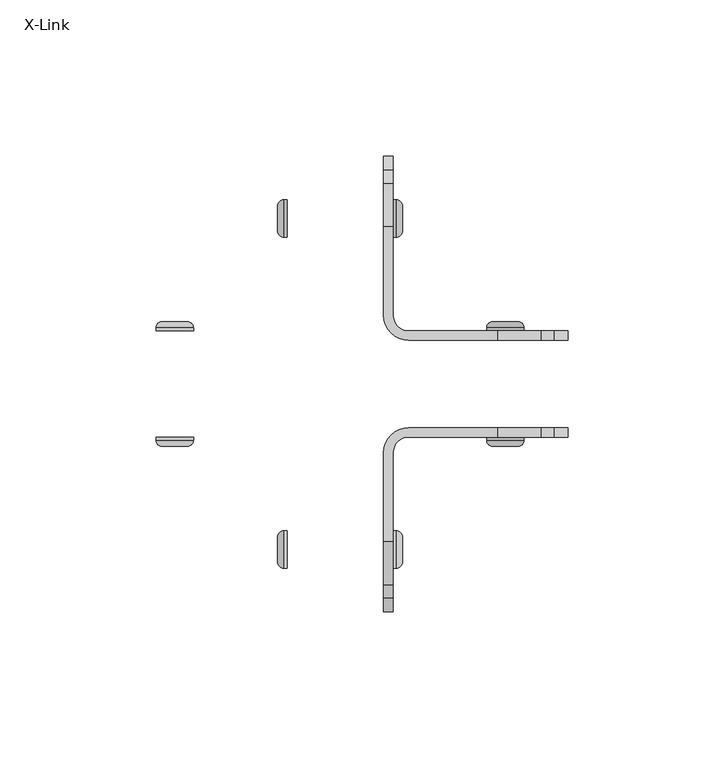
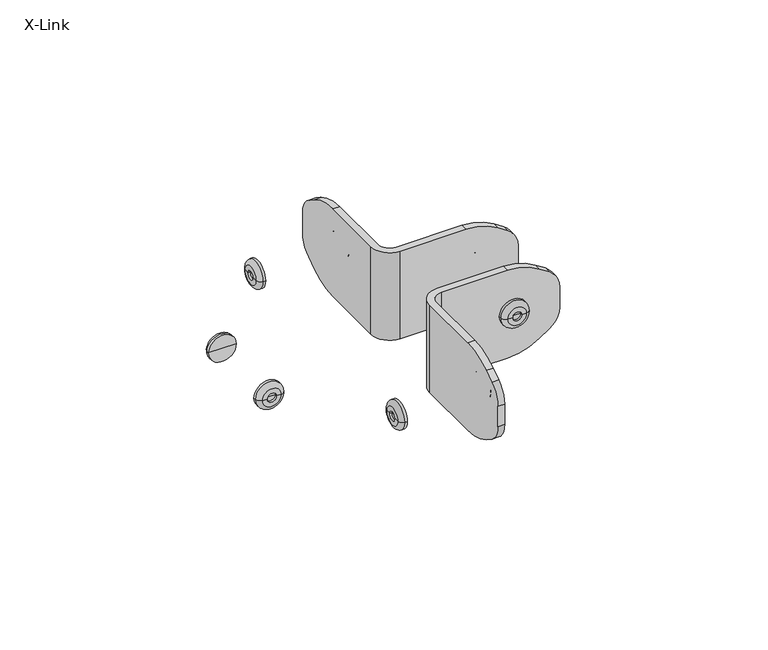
"""IFC4 building model written with IfcOpenShell, lengths in millimetres: furniture geometry, DBLTD_Sixteen3_PrivacyScreens_Artus_Bracket : X-Link."""

from ifc_helpers import new_model, si_unit, point, frame, origin, place, context, project, spatial, polyline, circle_curve, ellipse_curve, trimmed, source, transform, mapped, element, save
from ifc_brep_helpers import plane_surface, cylinder_surface, revolved_surface, advanced_brep


def x_link_ebb2dd72(model_context):
    return source(origin(), model_context, "Body", "AdvancedBrep", [
        advanced_brep(
        [(17.9858199, 773.0, 100.0), (17.9858199, 761.0, 100.0), (17.0, 761.0, 100.0), (17.0, 773.0, 100.0), (17.0, 767.0, 100.0), (19.0, 767.0, 100.0), (19.0, 765.0, 100.0), (19.0, 769.0, 100.0), (20.0, 765.0, 100.0), (20.0, 769.0, 100.0), (20.0, 763.0141801, 100.0), (20.0, 770.9858199, 100.0)],
        [
            (0, 1, circle_curve(frame((17.9858199, 767.0, 100.0), z_axis=(-1.0, 0.0, 0.0), x_axis=(0.0, -1.0, 0.0)), 6.0)),
            (1, 2),
            (2, 3, circle_curve(frame((17.0, 767.0, 100.0), z_axis=(1.0, 0.0, 0.0), x_axis=(0.0, -1.0, 0.0)), 6.0)),
            (3, 0),
            (1, 0, circle_curve(frame((17.9858199, 767.0, 100.0), z_axis=(-1.0, 0.0, 0.0), x_axis=(0.0, -1.0, 0.0)), 6.0)),
            (3, 2, circle_curve(frame((17.0, 767.0, 100.0), z_axis=(1.0, 0.0, 0.0), x_axis=(0.0, -1.0, 0.0)), 6.0)),
            (2, 4),
            (4, 3),
            (5, 6),
            (6, 7, circle_curve(frame((19.0, 767.0, 100.0), z_axis=(1.0, 0.0, 0.0), x_axis=(0.0, -1.0, 0.0)), 2.0)),
            (7, 5),
            (7, 6, circle_curve(frame((19.0, 767.0, 100.0), z_axis=(1.0, 0.0, 0.0), x_axis=(0.0, -1.0, 0.0)), 2.0)),
            (6, 8),
            (8, 9, circle_curve(frame((20.0, 767.0, 100.0), z_axis=(1.0, 0.0, 0.0), x_axis=(0.0, -1.0, 0.0)), 2.0)),
            (9, 7),
            (9, 8, circle_curve(frame((20.0, 767.0, 100.0), z_axis=(1.0, 0.0, 0.0), x_axis=(0.0, -1.0, 0.0)), 2.0)),
            (8, 10),
            (10, 11, circle_curve(frame((20.0, 767.0, 100.0), z_axis=(1.0, 0.0, 0.0), x_axis=(0.0, -1.0, 0.0)), 3.9858199)),
            (11, 9),
            (11, 10, circle_curve(frame((20.0, 767.0, 100.0), z_axis=(1.0, 0.0, 0.0), x_axis=(0.0, -1.0, 0.0)), 3.9858199)),
            (10, 1, circle_curve(frame((17.9858199, 763.0141801, 100.0), z_axis=(0.0, 0.0, -1.0), x_axis=(0.0, 1.0, 0.0)), 2.0141801)),
            (0, 11, circle_curve(frame((17.9858199, 770.9858199, 100.0), z_axis=(0.0, 0.0, -1.0), x_axis=(0.0, -1.0, 0.0)), 2.0141801)),
        ],
        [
            cylinder_surface(frame((18.424474, 767.0, 100.0), z_axis=(1.0, 0.0, 0.0), x_axis=(0.0, -1.0, 0.0)), 6.0),
            plane_surface(frame((17.0, 767.0, 100.0), z_axis=(-1.0, 0.0, 0.0), x_axis=(0.0, -1.0, 0.0))),
            plane_surface(frame((19.0, 767.0, 100.0), z_axis=(1.0, 0.0, 0.0), x_axis=(0.0, -1.0, 0.0))),
            revolved_surface(polyline([(20.0, 765.0, 100.0), (19.0, 765.0, 100.0)]), (18.424474, 767.0, 100.0), (1.0, 0.0, 0.0)),
            plane_surface(frame((20.0, 767.0, 100.0), z_axis=(1.0, 0.0, 0.0), x_axis=(0.0, -1.0, 0.0))),
            revolved_surface(trimmed(ellipse_curve(frame((17.9858199, 763.0141801, 100.0), z_axis=(0.0, 0.0, 1.0), x_axis=(0.0, 1.0, 0.0)), 2.0141801, 2.0141801), [point((17.9858199, 761.0, 100.0))], [point((20.0, 763.0141801, 100.0))], True, "CARTESIAN"), (18.424474, 767.0, 100.0), (1.0, 0.0, 0.0)),
        ],
        [
            (0, [[1, 2, 3, 4]]),
            (0, [[5, -4, 6, -2]]),
            (1, [[-3, 7, 8]]),
            (1, [[-6, -8, -7]]),
            (2, [[9, 10, 11]]),
            (2, [[-11, 12, -9]]),
            (3, [[-10, 13, 14, 15]]),
            (3, [[-12, -15, 16, -13]]),
            (4, [[-14, 17, 18, 19]]),
            (4, [[-16, -19, 20, -17]]),
            (5, [[-18, 21, -1, 22]]),
            (5, [[-20, -22, -5, -21]]),
        ],
    ),
        advanced_brep(
        [(-17.0, 773.0, 100.0), (-17.0, 761.0, 100.0), (-17.9858199, 761.0, 100.0), (-17.9858199, 773.0, 100.0), (-17.0, 767.0, 100.0), (-19.0, 769.0, 100.0), (-19.0, 765.0, 100.0), (-19.0, 767.0, 100.0), (-20.0, 769.0, 100.0), (-20.0, 765.0, 100.0), (-20.0, 770.9858199, 100.0), (-20.0, 763.0141801, 100.0)],
        [
            (0, 1, circle_curve(frame((-17.0, 767.0, 100.0), z_axis=(-1.0, 0.0, 0.0), x_axis=(0.0, -1.0, 0.0)), 6.0)),
            (1, 2),
            (2, 3, circle_curve(frame((-17.9858199, 767.0, 100.0), z_axis=(1.0, 0.0, 0.0), x_axis=(0.0, -1.0, 0.0)), 6.0)),
            (3, 0),
            (1, 0, circle_curve(frame((-17.0, 767.0, 100.0), z_axis=(-1.0, 0.0, 0.0), x_axis=(0.0, -1.0, 0.0)), 6.0)),
            (3, 2, circle_curve(frame((-17.9858199, 767.0, 100.0), z_axis=(1.0, 0.0, 0.0), x_axis=(0.0, -1.0, 0.0)), 6.0)),
            (4, 1),
            (0, 4),
            (5, 6, circle_curve(frame((-19.0, 767.0, 100.0), z_axis=(-1.0, 0.0, 0.0), x_axis=(0.0, -1.0, 0.0)), 2.0)),
            (6, 7),
            (7, 5),
            (6, 5, circle_curve(frame((-19.0, 767.0, 100.0), z_axis=(-1.0, 0.0, 0.0), x_axis=(0.0, -1.0, 0.0)), 2.0)),
            (8, 9, circle_curve(frame((-20.0, 767.0, 100.0), z_axis=(-1.0, 0.0, 0.0), x_axis=(0.0, -1.0, 0.0)), 2.0)),
            (9, 6),
            (5, 8),
            (9, 8, circle_curve(frame((-20.0, 767.0, 100.0), z_axis=(-1.0, 0.0, 0.0), x_axis=(0.0, -1.0, 0.0)), 2.0)),
            (10, 11, circle_curve(frame((-20.0, 767.0, 100.0), z_axis=(-1.0, 0.0, 0.0), x_axis=(0.0, -1.0, 0.0)), 3.9858199)),
            (11, 9),
            (8, 10),
            (11, 10, circle_curve(frame((-20.0, 767.0, 100.0), z_axis=(-1.0, 0.0, 0.0), x_axis=(0.0, -1.0, 0.0)), 3.9858199)),
            (2, 11, circle_curve(frame((-17.9858199, 763.0141801, 100.0), z_axis=(0.0, 0.0, -1.0), x_axis=(0.0, 1.0, 0.0)), 2.0141801)),
            (10, 3, circle_curve(frame((-17.9858199, 770.9858199, 100.0), z_axis=(0.0, 0.0, -1.0), x_axis=(0.0, -1.0, 0.0)), 2.0141801)),
        ],
        [
            cylinder_surface(frame((-18.424474, 767.0, 100.0), z_axis=(1.0, 0.0, 0.0), x_axis=(0.0, -1.0, 0.0)), 6.0),
            plane_surface(frame((-17.0, 767.0, 100.0), z_axis=(1.0, 0.0, 0.0), x_axis=(0.0, -1.0, 0.0))),
            plane_surface(frame((-19.0, 767.0, 100.0), z_axis=(-1.0, 0.0, 0.0), x_axis=(0.0, -1.0, 0.0))),
            revolved_surface(polyline([(-19.0, 765.0, 100.0), (-20.0, 765.0, 100.0)]), (-18.424474, 767.0, 100.0), (1.0, 0.0, 0.0)),
            plane_surface(frame((-20.0, 767.0, 100.0), z_axis=(-1.0, 0.0, 0.0), x_axis=(0.0, -1.0, 0.0))),
            revolved_surface(trimmed(ellipse_curve(frame((-17.9858199, 763.0141801, 100.0), z_axis=(0.0, 0.0, 1.0), x_axis=(0.0, 1.0, 0.0)), 2.0141801, 2.0141801), [point((-20.0, 763.0141801, 100.0))], [point((-17.9858199, 761.0, 100.0))], True, "CARTESIAN"), (-18.424474, 767.0, 100.0), (1.0, 0.0, 0.0)),
        ],
        [
            (0, [[1, 2, 3, 4]]),
            (0, [[5, -4, 6, -2]]),
            (1, [[7, -1, 8]]),
            (1, [[-8, -5, -7]]),
            (2, [[9, 10, 11]]),
            (2, [[12, -11, -10]]),
            (3, [[13, 14, -9, 15]]),
            (3, [[16, -15, -12, -14]]),
            (4, [[17, 18, -13, 19]]),
            (4, [[20, -19, -16, -18]]),
            (5, [[-3, 21, -17, 22]]),
            (5, [[-6, -22, -20, -21]]),
        ],
    ),
        advanced_brep(
        [(17.0, 867.0, 100.0), (17.0, 879.0, 100.0), (17.9858199, 879.0, 100.0), (17.9858199, 867.0, 100.0), (17.0, 873.0, 100.0), (19.0, 871.0, 100.0), (19.0, 875.0, 100.0), (19.0, 873.0, 100.0), (20.0, 871.0, 100.0), (20.0, 875.0, 100.0), (20.0, 869.0141801, 100.0), (20.0, 876.9858199, 100.0)],
        [
            (0, 1, circle_curve(frame((17.0, 873.0, 100.0), z_axis=(1.0, 0.0, 0.0), x_axis=(0.0, 1.0, 0.0)), 6.0)),
            (1, 2),
            (2, 3, circle_curve(frame((17.9858199, 873.0, 100.0), z_axis=(-1.0, 0.0, 0.0), x_axis=(0.0, 1.0, 0.0)), 6.0)),
            (3, 0),
            (1, 0, circle_curve(frame((17.0, 873.0, 100.0), z_axis=(1.0, 0.0, 0.0), x_axis=(0.0, 1.0, 0.0)), 6.0)),
            (3, 2, circle_curve(frame((17.9858199, 873.0, 100.0), z_axis=(-1.0, 0.0, 0.0), x_axis=(0.0, 1.0, 0.0)), 6.0)),
            (4, 1),
            (0, 4),
            (5, 6, circle_curve(frame((19.0, 873.0, 100.0), z_axis=(1.0, 0.0, 0.0), x_axis=(0.0, 1.0, 0.0)), 2.0)),
            (6, 7),
            (7, 5),
            (6, 5, circle_curve(frame((19.0, 873.0, 100.0), z_axis=(1.0, 0.0, 0.0), x_axis=(0.0, 1.0, 0.0)), 2.0)),
            (8, 9, circle_curve(frame((20.0, 873.0, 100.0), z_axis=(1.0, 0.0, 0.0), x_axis=(0.0, 1.0, 0.0)), 2.0)),
            (9, 6),
            (5, 8),
            (9, 8, circle_curve(frame((20.0, 873.0, 100.0), z_axis=(1.0, 0.0, 0.0), x_axis=(0.0, 1.0, 0.0)), 2.0)),
            (10, 11, circle_curve(frame((20.0, 873.0, 100.0), z_axis=(1.0, 0.0, 0.0), x_axis=(0.0, 1.0, 0.0)), 3.9858199)),
            (11, 9),
            (8, 10),
            (11, 10, circle_curve(frame((20.0, 873.0, 100.0), z_axis=(1.0, 0.0, 0.0), x_axis=(0.0, 1.0, 0.0)), 3.9858199)),
            (2, 11, circle_curve(frame((17.9858199, 876.9858199, 100.0), z_axis=(0.0, 0.0, -1.0), x_axis=(0.0, -1.0, 0.0)), 2.0141801)),
            (10, 3, circle_curve(frame((17.9858199, 869.0141801, 100.0), z_axis=(0.0, 0.0, -1.0), x_axis=(0.0, 1.0, 0.0)), 2.0141801)),
        ],
        [
            cylinder_surface(frame((18.424474, 873.0, 100.0), z_axis=(-1.0, 0.0, 0.0), x_axis=(0.0, 1.0, 0.0)), 6.0),
            plane_surface(frame((17.0, 873.0, 100.0), z_axis=(-1.0, 0.0, 0.0), x_axis=(0.0, 1.0, 0.0))),
            plane_surface(frame((19.0, 873.0, 100.0), z_axis=(1.0, 0.0, 0.0), x_axis=(0.0, 1.0, 0.0))),
            revolved_surface(polyline([(19.0, 875.0, 100.0), (20.0, 875.0, 100.0)]), (18.424474, 873.0, 100.0), (-1.0, 0.0, 0.0)),
            plane_surface(frame((20.0, 873.0, 100.0), z_axis=(1.0, 0.0, 0.0), x_axis=(0.0, 1.0, 0.0))),
            revolved_surface(trimmed(ellipse_curve(frame((17.9858199, 876.9858199, 100.0), z_axis=(0.0, 0.0, 1.0), x_axis=(0.0, -1.0, 0.0)), 2.0141801, 2.0141801), [point((20.0, 876.9858199, 100.0))], [point((17.9858199, 879.0, 100.0))], True, "CARTESIAN"), (18.424474, 873.0, 100.0), (-1.0, 0.0, 0.0)),
        ],
        [
            (0, [[1, 2, 3, 4]]),
            (0, [[5, -4, 6, -2]]),
            (1, [[7, -1, 8]]),
            (1, [[-8, -5, -7]]),
            (2, [[9, 10, 11]]),
            (2, [[12, -11, -10]]),
            (3, [[13, 14, -9, 15]]),
            (3, [[16, -15, -12, -14]]),
            (4, [[17, 18, -13, 19]]),
            (4, [[20, -19, -16, -18]]),
            (5, [[-3, 21, -17, 22]]),
            (5, [[-6, -22, -20, -21]]),
        ],
    ),
        advanced_brep(
        [(-17.9858199, 867.0, 100.0), (-17.9858199, 879.0, 100.0), (-17.0, 879.0, 100.0), (-17.0, 867.0, 100.0), (-17.0, 873.0, 100.0), (-19.0, 873.0, 100.0), (-19.0, 875.0, 100.0), (-19.0, 871.0, 100.0), (-20.0, 875.0, 100.0), (-20.0, 871.0, 100.0), (-20.0, 876.9858199, 100.0), (-20.0, 869.0141801, 100.0)],
        [
            (0, 1, circle_curve(frame((-17.9858199, 873.0, 100.0), z_axis=(1.0, 0.0, 0.0), x_axis=(0.0, 1.0, 0.0)), 6.0)),
            (1, 2),
            (2, 3, circle_curve(frame((-17.0, 873.0, 100.0), z_axis=(-1.0, 0.0, 0.0), x_axis=(0.0, 1.0, 0.0)), 6.0)),
            (3, 0),
            (1, 0, circle_curve(frame((-17.9858199, 873.0, 100.0), z_axis=(1.0, 0.0, 0.0), x_axis=(0.0, 1.0, 0.0)), 6.0)),
            (3, 2, circle_curve(frame((-17.0, 873.0, 100.0), z_axis=(-1.0, 0.0, 0.0), x_axis=(0.0, 1.0, 0.0)), 6.0)),
            (2, 4),
            (4, 3),
            (5, 6),
            (6, 7, circle_curve(frame((-19.0, 873.0, 100.0), z_axis=(-1.0, 0.0, 0.0), x_axis=(0.0, 1.0, 0.0)), 2.0)),
            (7, 5),
            (7, 6, circle_curve(frame((-19.0, 873.0, 100.0), z_axis=(-1.0, 0.0, 0.0), x_axis=(0.0, 1.0, 0.0)), 2.0)),
            (6, 8),
            (8, 9, circle_curve(frame((-20.0, 873.0, 100.0), z_axis=(-1.0, 0.0, 0.0), x_axis=(0.0, 1.0, 0.0)), 2.0)),
            (9, 7),
            (9, 8, circle_curve(frame((-20.0, 873.0, 100.0), z_axis=(-1.0, 0.0, 0.0), x_axis=(0.0, 1.0, 0.0)), 2.0)),
            (8, 10),
            (10, 11, circle_curve(frame((-20.0, 873.0, 100.0), z_axis=(-1.0, 0.0, 0.0), x_axis=(0.0, 1.0, 0.0)), 3.9858199)),
            (11, 9),
            (11, 10, circle_curve(frame((-20.0, 873.0, 100.0), z_axis=(-1.0, 0.0, 0.0), x_axis=(0.0, 1.0, 0.0)), 3.9858199)),
            (10, 1, circle_curve(frame((-17.9858199, 876.9858199, 100.0), z_axis=(0.0, 0.0, -1.0), x_axis=(0.0, -1.0, 0.0)), 2.0141801)),
            (0, 11, circle_curve(frame((-17.9858199, 869.0141801, 100.0), z_axis=(0.0, 0.0, -1.0), x_axis=(0.0, 1.0, 0.0)), 2.0141801)),
        ],
        [
            cylinder_surface(frame((-18.424474, 873.0, 100.0), z_axis=(-1.0, 0.0, 0.0), x_axis=(0.0, 1.0, 0.0)), 6.0),
            plane_surface(frame((-17.0, 873.0, 100.0), z_axis=(1.0, 0.0, 0.0), x_axis=(0.0, 1.0, 0.0))),
            plane_surface(frame((-19.0, 873.0, 100.0), z_axis=(-1.0, 0.0, 0.0), x_axis=(0.0, 1.0, 0.0))),
            revolved_surface(polyline([(-20.0, 875.0, 100.0), (-19.0, 875.0, 100.0)]), (-18.424474, 873.0, 100.0), (-1.0, 0.0, 0.0)),
            plane_surface(frame((-20.0, 873.0, 100.0), z_axis=(-1.0, 0.0, 0.0), x_axis=(0.0, 1.0, 0.0))),
            revolved_surface(trimmed(ellipse_curve(frame((-17.9858199, 876.9858199, 100.0), z_axis=(0.0, 0.0, 1.0), x_axis=(0.0, -1.0, 0.0)), 2.0141801, 2.0141801), [point((-17.9858199, 879.0, 100.0))], [point((-20.0, 876.9858199, 100.0))], True, "CARTESIAN"), (-18.424474, 873.0, 100.0), (-1.0, 0.0, 0.0)),
        ],
        [
            (0, [[1, 2, 3, 4]]),
            (0, [[5, -4, 6, -2]]),
            (1, [[-3, 7, 8]]),
            (1, [[-6, -8, -7]]),
            (2, [[9, 10, 11]]),
            (2, [[-11, 12, -9]]),
            (3, [[-10, 13, 14, 15]]),
            (3, [[-12, -15, 16, -13]]),
            (4, [[-14, 17, 18, 19]]),
            (4, [[-16, -19, 20, -17]]),
            (5, [[-18, 21, -1, 22]]),
            (5, [[-20, -22, -5, -21]]),
        ],
    ),
        advanced_brep(
        [(47.0, 803.0, 100.0), (59.0, 803.0, 100.0), (59.0, 802.0141801, 100.0), (47.0, 802.0141801, 100.0), (53.0, 803.0, 100.0), (51.0, 801.0, 100.0), (55.0, 801.0, 100.0), (53.0, 801.0, 100.0), (51.0, 800.0, 100.0), (55.0, 800.0, 100.0), (49.0141801, 800.0, 100.0), (56.9858199, 800.0, 100.0)],
        [
            (0, 1, circle_curve(frame((53.0, 803.0, 100.0), z_axis=(0.0, -1.0, 0.0), x_axis=(1.0, 0.0, 0.0)), 6.0)),
            (1, 2),
            (2, 3, circle_curve(frame((53.0, 802.0141801, 100.0), z_axis=(0.0, 1.0, 0.0), x_axis=(1.0, 0.0, 0.0)), 6.0)),
            (3, 0),
            (1, 0, circle_curve(frame((53.0, 803.0, 100.0), z_axis=(0.0, -1.0, 0.0), x_axis=(1.0, 0.0, 0.0)), 6.0)),
            (3, 2, circle_curve(frame((53.0, 802.0141801, 100.0), z_axis=(0.0, 1.0, 0.0), x_axis=(1.0, 0.0, 0.0)), 6.0)),
            (4, 1),
            (0, 4),
            (5, 6, circle_curve(frame((53.0, 801.0, 100.0), z_axis=(0.0, -1.0, 0.0), x_axis=(1.0, 0.0, 0.0)), 2.0)),
            (6, 7),
            (7, 5),
            (6, 5, circle_curve(frame((53.0, 801.0, 100.0), z_axis=(0.0, -1.0, 0.0), x_axis=(1.0, 0.0, 0.0)), 2.0)),
            (8, 9, circle_curve(frame((53.0, 800.0, 100.0), z_axis=(0.0, -1.0, 0.0), x_axis=(1.0, 0.0, 0.0)), 2.0)),
            (9, 6),
            (5, 8),
            (9, 8, circle_curve(frame((53.0, 800.0, 100.0), z_axis=(0.0, -1.0, 0.0), x_axis=(1.0, 0.0, 0.0)), 2.0)),
            (10, 11, circle_curve(frame((53.0, 800.0, 100.0), z_axis=(0.0, -1.0, 0.0), x_axis=(1.0, 0.0, 0.0)), 3.9858199)),
            (11, 9),
            (8, 10),
            (11, 10, circle_curve(frame((53.0, 800.0, 100.0), z_axis=(0.0, -1.0, 0.0), x_axis=(1.0, 0.0, 0.0)), 3.9858199)),
            (2, 11, circle_curve(frame((56.9858199, 802.0141801, 100.0), z_axis=(0.0, 0.0, -1.0), x_axis=(-1.0, 0.0, 0.0)), 2.0141801)),
            (10, 3, circle_curve(frame((49.0141801, 802.0141801, 100.0), z_axis=(0.0, 0.0, -1.0), x_axis=(1.0, 0.0, 0.0)), 2.0141801)),
        ],
        [
            cylinder_surface(frame((53.0, 801.575526, 100.0), z_axis=(0.0, 1.0, 0.0), x_axis=(1.0, 0.0, 0.0)), 6.0),
            plane_surface(frame((53.0, 803.0, 100.0), z_axis=(0.0, 1.0, 0.0), x_axis=(1.0, 0.0, 0.0))),
            plane_surface(frame((53.0, 801.0, 100.0), z_axis=(0.0, -1.0, 0.0), x_axis=(1.0, 0.0, 0.0))),
            revolved_surface(polyline([(55.0, 801.0, 100.0), (55.0, 800.0, 100.0)]), (53.0, 801.575526, 100.0), (0.0, 1.0, 0.0)),
            plane_surface(frame((53.0, 800.0, 100.0), z_axis=(0.0, -1.0, 0.0), x_axis=(1.0, 0.0, 0.0))),
            revolved_surface(trimmed(ellipse_curve(frame((56.9858199, 802.0141801, 100.0), z_axis=(0.0, 0.0, 1.0), x_axis=(-1.0, 0.0, 0.0)), 2.0141801, 2.0141801), [point((56.9858199, 800.0, 100.0))], [point((59.0, 802.0141801, 100.0))], True, "CARTESIAN"), (53.0, 801.575526, 100.0), (0.0, 1.0, 0.0)),
        ],
        [
            (0, [[1, 2, 3, 4]]),
            (0, [[5, -4, 6, -2]]),
            (1, [[7, -1, 8]]),
            (1, [[-8, -5, -7]]),
            (2, [[9, 10, 11]]),
            (2, [[12, -11, -10]]),
            (3, [[13, 14, -9, 15]]),
            (3, [[16, -15, -12, -14]]),
            (4, [[17, 18, -13, 19]]),
            (4, [[20, -19, -16, -18]]),
            (5, [[-3, 21, -17, 22]]),
            (5, [[-6, -22, -20, -21]]),
        ],
    ),
        advanced_brep(
        [(47.0, 837.9858199, 100.0), (59.0, 837.9858199, 100.0), (59.0, 837.0, 100.0), (47.0, 837.0, 100.0), (53.0, 837.0, 100.0), (53.0, 839.0, 100.0), (55.0, 839.0, 100.0), (51.0, 839.0, 100.0), (55.0, 840.0, 100.0), (51.0, 840.0, 100.0), (56.9858199, 840.0, 100.0), (49.0141801, 840.0, 100.0)],
        [
            (0, 1, circle_curve(frame((53.0, 837.9858199, 100.0), z_axis=(0.0, -1.0, 0.0), x_axis=(1.0, 0.0, 0.0)), 6.0)),
            (1, 2),
            (2, 3, circle_curve(frame((53.0, 837.0, 100.0), z_axis=(0.0, 1.0, 0.0), x_axis=(1.0, 0.0, 0.0)), 6.0)),
            (3, 0),
            (1, 0, circle_curve(frame((53.0, 837.9858199, 100.0), z_axis=(0.0, -1.0, 0.0), x_axis=(1.0, 0.0, 0.0)), 6.0)),
            (3, 2, circle_curve(frame((53.0, 837.0, 100.0), z_axis=(0.0, 1.0, 0.0), x_axis=(1.0, 0.0, 0.0)), 6.0)),
            (2, 4),
            (4, 3),
            (5, 6),
            (6, 7, circle_curve(frame((53.0, 839.0, 100.0), z_axis=(0.0, 1.0, 0.0), x_axis=(1.0, 0.0, 0.0)), 2.0)),
            (7, 5),
            (7, 6, circle_curve(frame((53.0, 839.0, 100.0), z_axis=(0.0, 1.0, 0.0), x_axis=(1.0, 0.0, 0.0)), 2.0)),
            (6, 8),
            (8, 9, circle_curve(frame((53.0, 840.0, 100.0), z_axis=(0.0, 1.0, 0.0), x_axis=(1.0, 0.0, 0.0)), 2.0)),
            (9, 7),
            (9, 8, circle_curve(frame((53.0, 840.0, 100.0), z_axis=(0.0, 1.0, 0.0), x_axis=(1.0, 0.0, 0.0)), 2.0)),
            (8, 10),
            (10, 11, circle_curve(frame((53.0, 840.0, 100.0), z_axis=(0.0, 1.0, 0.0), x_axis=(1.0, 0.0, 0.0)), 3.9858199)),
            (11, 9),
            (11, 10, circle_curve(frame((53.0, 840.0, 100.0), z_axis=(0.0, 1.0, 0.0), x_axis=(1.0, 0.0, 0.0)), 3.9858199)),
            (10, 1, circle_curve(frame((56.9858199, 837.9858199, 100.0), z_axis=(0.0, 0.0, -1.0), x_axis=(-1.0, 0.0, 0.0)), 2.0141801)),
            (0, 11, circle_curve(frame((49.0141801, 837.9858199, 100.0), z_axis=(0.0, 0.0, -1.0), x_axis=(1.0, 0.0, 0.0)), 2.0141801)),
        ],
        [
            cylinder_surface(frame((53.0, 838.424474, 100.0), z_axis=(0.0, 1.0, 0.0), x_axis=(1.0, 0.0, 0.0)), 6.0),
            plane_surface(frame((53.0, 837.0, 100.0), z_axis=(0.0, -1.0, 0.0), x_axis=(1.0, 0.0, 0.0))),
            plane_surface(frame((53.0, 839.0, 100.0), z_axis=(0.0, 1.0, 0.0), x_axis=(1.0, 0.0, 0.0))),
            revolved_surface(polyline([(55.0, 840.0, 100.0), (55.0, 839.0, 100.0)]), (53.0, 838.424474, 100.0), (0.0, 1.0, 0.0)),
            plane_surface(frame((53.0, 840.0, 100.0), z_axis=(0.0, 1.0, 0.0), x_axis=(1.0, 0.0, 0.0))),
            revolved_surface(trimmed(ellipse_curve(frame((56.9858199, 837.9858199, 100.0), z_axis=(0.0, 0.0, 1.0), x_axis=(-1.0, 0.0, 0.0)), 2.0141801, 2.0141801), [point((59.0, 837.9858199, 100.0))], [point((56.9858199, 840.0, 100.0))], True, "CARTESIAN"), (53.0, 838.424474, 100.0), (0.0, 1.0, 0.0)),
        ],
        [
            (0, [[1, 2, 3, 4]]),
            (0, [[5, -4, 6, -2]]),
            (1, [[-3, 7, 8]]),
            (1, [[-6, -8, -7]]),
            (2, [[9, 10, 11]]),
            (2, [[-11, 12, -9]]),
            (3, [[-10, 13, 14, 15]]),
            (3, [[-12, -15, 16, -13]]),
            (4, [[-14, 17, 18, 19]]),
            (4, [[-16, -19, 20, -17]]),
            (5, [[-18, 21, -1, 22]]),
            (5, [[-20, -22, -5, -21]]),
        ],
    ),
        advanced_brep(
        [(-47.0, 802.0141801, 100.0), (-59.0, 802.0141801, 100.0), (-59.0, 803.0, 100.0), (-47.0, 803.0, 100.0), (-53.0, 803.0, 100.0), (-53.0, 801.0, 100.0), (-55.0, 801.0, 100.0), (-51.0, 801.0, 100.0), (-55.0, 800.0, 100.0), (-51.0, 800.0, 100.0), (-56.9858199, 800.0, 100.0), (-49.0141801, 800.0, 100.0)],
        [
            (0, 1, circle_curve(frame((-53.0, 802.0141801, 100.0), z_axis=(0.0, 1.0, 0.0), x_axis=(-1.0, 0.0, 0.0)), 6.0)),
            (1, 2),
            (2, 3, circle_curve(frame((-53.0, 803.0, 100.0), z_axis=(0.0, -1.0, 0.0), x_axis=(-1.0, 0.0, 0.0)), 6.0)),
            (3, 0),
            (1, 0, circle_curve(frame((-53.0, 802.0141801, 100.0), z_axis=(0.0, 1.0, 0.0), x_axis=(-1.0, 0.0, 0.0)), 6.0)),
            (3, 2, circle_curve(frame((-53.0, 803.0, 100.0), z_axis=(0.0, -1.0, 0.0), x_axis=(-1.0, 0.0, 0.0)), 6.0)),
            (2, 4),
            (4, 3),
            (5, 6),
            (6, 7, circle_curve(frame((-53.0, 801.0, 100.0), z_axis=(0.0, -1.0, 0.0), x_axis=(-1.0, 0.0, 0.0)), 2.0)),
            (7, 5),
            (7, 6, circle_curve(frame((-53.0, 801.0, 100.0), z_axis=(0.0, -1.0, 0.0), x_axis=(-1.0, 0.0, 0.0)), 2.0)),
            (6, 8),
            (8, 9, circle_curve(frame((-53.0, 800.0, 100.0), z_axis=(0.0, -1.0, 0.0), x_axis=(-1.0, 0.0, 0.0)), 2.0)),
            (9, 7),
            (9, 8, circle_curve(frame((-53.0, 800.0, 100.0), z_axis=(0.0, -1.0, 0.0), x_axis=(-1.0, 0.0, 0.0)), 2.0)),
            (8, 10),
            (10, 11, circle_curve(frame((-53.0, 800.0, 100.0), z_axis=(0.0, -1.0, 0.0), x_axis=(-1.0, 0.0, 0.0)), 3.9858199)),
            (11, 9),
            (11, 10, circle_curve(frame((-53.0, 800.0, 100.0), z_axis=(0.0, -1.0, 0.0), x_axis=(-1.0, 0.0, 0.0)), 3.9858199)),
            (10, 1, circle_curve(frame((-56.9858199, 802.0141801, 100.0), z_axis=(0.0, 0.0, -1.0), x_axis=(1.0, 0.0, 0.0)), 2.0141801)),
            (0, 11, circle_curve(frame((-49.0141801, 802.0141801, 100.0), z_axis=(0.0, 0.0, -1.0), x_axis=(-1.0, 0.0, 0.0)), 2.0141801)),
        ],
        [
            cylinder_surface(frame((-53.0, 801.575526, 100.0), z_axis=(0.0, -1.0, 0.0), x_axis=(-1.0, 0.0, 0.0)), 6.0),
            plane_surface(frame((-53.0, 803.0, 100.0), z_axis=(0.0, 1.0, 0.0), x_axis=(-1.0, 0.0, 0.0))),
            plane_surface(frame((-53.0, 801.0, 100.0), z_axis=(0.0, -1.0, 0.0), x_axis=(-1.0, 0.0, 0.0))),
            revolved_surface(polyline([(-55.0, 800.0, 100.0), (-55.0, 801.0, 100.0)]), (-53.0, 801.575526, 100.0), (0.0, -1.0, 0.0)),
            plane_surface(frame((-53.0, 800.0, 100.0), z_axis=(0.0, -1.0, 0.0), x_axis=(-1.0, 0.0, 0.0))),
            revolved_surface(trimmed(ellipse_curve(frame((-56.9858199, 802.0141801, 100.0), z_axis=(0.0, 0.0, 1.0), x_axis=(1.0, 0.0, 0.0)), 2.0141801, 2.0141801), [point((-59.0, 802.0141801, 100.0))], [point((-56.9858199, 800.0, 100.0))], True, "CARTESIAN"), (-53.0, 801.575526, 100.0), (0.0, -1.0, 0.0)),
        ],
        [
            (0, [[1, 2, 3, 4]]),
            (0, [[5, -4, 6, -2]]),
            (1, [[-3, 7, 8]]),
            (1, [[-6, -8, -7]]),
            (2, [[9, 10, 11]]),
            (2, [[-11, 12, -9]]),
            (3, [[-10, 13, 14, 15]]),
            (3, [[-12, -15, 16, -13]]),
            (4, [[-14, 17, 18, 19]]),
            (4, [[-16, -19, 20, -17]]),
            (5, [[-18, 21, -1, 22]]),
            (5, [[-20, -22, -5, -21]]),
        ],
    ),
        advanced_brep(
        [(-47.0, 837.0, 100.0), (-59.0, 837.0, 100.0), (-59.0, 837.9858199, 100.0), (-47.0, 837.9858199, 100.0), (-53.0, 837.0, 100.0), (-51.0, 839.0, 100.0), (-55.0, 839.0, 100.0), (-53.0, 839.0, 100.0), (-51.0, 840.0, 100.0), (-55.0, 840.0, 100.0), (-49.0141801, 840.0, 100.0), (-56.9858199, 840.0, 100.0)],
        [
            (0, 1, circle_curve(frame((-53.0, 837.0, 100.0), z_axis=(0.0, 1.0, 0.0), x_axis=(-1.0, 0.0, 0.0)), 6.0)),
            (1, 2),
            (2, 3, circle_curve(frame((-53.0, 837.9858199, 100.0), z_axis=(0.0, -1.0, 0.0), x_axis=(-1.0, 0.0, 0.0)), 6.0)),
            (3, 0),
            (1, 0, circle_curve(frame((-53.0, 837.0, 100.0), z_axis=(0.0, 1.0, 0.0), x_axis=(-1.0, 0.0, 0.0)), 6.0)),
            (3, 2, circle_curve(frame((-53.0, 837.9858199, 100.0), z_axis=(0.0, -1.0, 0.0), x_axis=(-1.0, 0.0, 0.0)), 6.0)),
            (4, 1),
            (0, 4),
            (5, 6, circle_curve(frame((-53.0, 839.0, 100.0), z_axis=(0.0, 1.0, 0.0), x_axis=(-1.0, 0.0, 0.0)), 2.0)),
            (6, 7),
            (7, 5),
            (6, 5, circle_curve(frame((-53.0, 839.0, 100.0), z_axis=(0.0, 1.0, 0.0), x_axis=(-1.0, 0.0, 0.0)), 2.0)),
            (8, 9, circle_curve(frame((-53.0, 840.0, 100.0), z_axis=(0.0, 1.0, 0.0), x_axis=(-1.0, 0.0, 0.0)), 2.0)),
            (9, 6),
            (5, 8),
            (9, 8, circle_curve(frame((-53.0, 840.0, 100.0), z_axis=(0.0, 1.0, 0.0), x_axis=(-1.0, 0.0, 0.0)), 2.0)),
            (10, 11, circle_curve(frame((-53.0, 840.0, 100.0), z_axis=(0.0, 1.0, 0.0), x_axis=(-1.0, 0.0, 0.0)), 3.9858199)),
            (11, 9),
            (8, 10),
            (11, 10, circle_curve(frame((-53.0, 840.0, 100.0), z_axis=(0.0, 1.0, 0.0), x_axis=(-1.0, 0.0, 0.0)), 3.9858199)),
            (2, 11, circle_curve(frame((-56.9858199, 837.9858199, 100.0), z_axis=(0.0, 0.0, -1.0), x_axis=(1.0, 0.0, 0.0)), 2.0141801)),
            (10, 3, circle_curve(frame((-49.0141801, 837.9858199, 100.0), z_axis=(0.0, 0.0, -1.0), x_axis=(-1.0, 0.0, 0.0)), 2.0141801)),
        ],
        [
            cylinder_surface(frame((-53.0, 838.424474, 100.0), z_axis=(0.0, -1.0, 0.0), x_axis=(-1.0, 0.0, 0.0)), 6.0),
            plane_surface(frame((-53.0, 837.0, 100.0), z_axis=(0.0, -1.0, 0.0), x_axis=(-1.0, 0.0, 0.0))),
            plane_surface(frame((-53.0, 839.0, 100.0), z_axis=(0.0, 1.0, 0.0), x_axis=(-1.0, 0.0, 0.0))),
            revolved_surface(polyline([(-55.0, 839.0, 100.0), (-55.0, 840.0, 100.0)]), (-53.0, 838.424474, 100.0), (0.0, -1.0, 0.0)),
            plane_surface(frame((-53.0, 840.0, 100.0), z_axis=(0.0, 1.0, 0.0), x_axis=(-1.0, 0.0, 0.0))),
            revolved_surface(trimmed(ellipse_curve(frame((-56.9858199, 837.9858199, 100.0), z_axis=(0.0, 0.0, 1.0), x_axis=(1.0, 0.0, 0.0)), 2.0141801, 2.0141801), [point((-56.9858199, 840.0, 100.0))], [point((-59.0, 837.9858199, 100.0))], True, "CARTESIAN"), (-53.0, 838.424474, 100.0), (0.0, -1.0, 0.0)),
        ],
        [
            (0, [[1, 2, 3, 4]]),
            (0, [[5, -4, 6, -2]]),
            (1, [[7, -1, 8]]),
            (1, [[-8, -5, -7]]),
            (2, [[9, 10, 11]]),
            (2, [[12, -11, -10]]),
            (3, [[13, 14, -9, 15]]),
            (3, [[16, -15, -12, -14]]),
            (4, [[17, 18, -13, 19]]),
            (4, [[20, -19, -16, -18]]),
            (5, [[-3, 21, -17, 22]]),
            (5, [[-6, -22, -20, -21]]),
        ],
    ),
        advanced_brep(
        [(14.0, 842.0, 120.0), (22.0, 834.0, 120.0), (50.4306091, 834.0, 120.0), (50.4306091, 837.0, 120.0), (22.0, 837.0, 120.0), (17.0, 842.0, 120.0), (17.0, 870.4306091, 120.0), (14.0, 870.4306091, 120.0), (17.0, 842.0, 80.0), (22.0, 837.0, 80.0), (50.4306091, 837.0, 80.0), (50.4306091, 834.0, 80.0), (22.0, 834.0, 80.0), (14.0, 842.0, 80.0), (14.0, 870.4306091, 80.0), (17.0, 870.4306091, 80.0), (64.298114, 837.0, 115.8012574), (68.547002, 837.0, 112.9686654), (73.0, 837.0, 104.6481624), (73.0, 837.0, 95.3518376), (68.547002, 837.0, 87.0313346), (64.298114, 837.0, 84.1987426), (73.0, 834.0, 104.6481624), (73.0, 834.0, 95.3518376), (64.298114, 834.0, 84.1987426), (68.547002, 834.0, 87.0313346), (68.547002, 834.0, 112.9686654), (64.298114, 834.0, 115.8012574), (14.0, 884.298114, 115.8012574), (14.0, 888.547002, 112.9686654), (14.0, 893.0, 104.6481624), (14.0, 893.0, 95.3518376), (14.0, 888.547002, 87.0313346), (14.0, 884.298114, 84.1987426), (17.0, 893.0, 104.6481624), (17.0, 893.0, 95.3518376), (17.0, 884.298114, 84.1987426), (17.0, 888.547002, 87.0313346), (17.0, 888.547002, 112.9686654), (17.0, 884.298114, 115.8012574)],
        [
            (0, 1, circle_curve(frame((22.0, 842.0, 120.0), z_axis=(0.0, 0.0, 1.0), x_axis=(-1.0, 0.0, 0.0)), 8.0)),
            (1, 2),
            (2, 3),
            (3, 4),
            (4, 5, circle_curve(frame((22.0, 842.0, 120.0), z_axis=(0.0, 0.0, -1.0), x_axis=(-1.0, 0.0, 0.0)), 5.0)),
            (5, 6),
            (6, 7),
            (7, 0),
            (8, 9, circle_curve(frame((22.0, 842.0, 80.0), z_axis=(0.0, 0.0, 1.0), x_axis=(-1.0, 0.0, 0.0)), 5.0)),
            (9, 10),
            (10, 11),
            (11, 12),
            (12, 13, circle_curve(frame((22.0, 842.0, 80.0), z_axis=(0.0, 0.0, -1.0), x_axis=(-1.0, 0.0, 0.0)), 8.0)),
            (13, 14),
            (14, 15),
            (15, 8),
            (4, 9),
            (8, 5),
            (3, 16, circle_curve(frame((50.4306091, 837.0, 95.0), z_axis=(0.0, 1.0, 0.0), x_axis=(-1.0, 0.0, 0.0)), 25.0)),
            (16, 17),
            (17, 18, circle_curve(frame((63.0, 837.0, 104.6481624), z_axis=(0.0, 1.0, 0.0), x_axis=(-1.0, 0.0, 0.0)), 10.0)),
            (18, 19),
            (19, 20, circle_curve(frame((63.0, 837.0, 95.3518376), z_axis=(0.0, 1.0, 0.0), x_axis=(-1.0, 0.0, 0.0)), 10.0)),
            (20, 21),
            (21, 10, circle_curve(frame((50.4306091, 837.0, 105.0), z_axis=(0.0, 1.0, 0.0), x_axis=(-1.0, 0.0, 0.0)), 25.0)),
            (18, 22),
            (22, 23),
            (23, 19),
            (1, 12),
            (11, 24, circle_curve(frame((50.4306091, 834.0, 105.0), z_axis=(0.0, -1.0, 0.0), x_axis=(-1.0, 0.0, 0.0)), 25.0)),
            (24, 25),
            (25, 23, circle_curve(frame((63.0, 834.0, 95.3518376), z_axis=(0.0, -1.0, 0.0), x_axis=(-1.0, 0.0, 0.0)), 10.0)),
            (22, 26, circle_curve(frame((63.0, 834.0, 104.6481624), z_axis=(0.0, -1.0, 0.0), x_axis=(-1.0, 0.0, 0.0)), 10.0)),
            (26, 27),
            (27, 2, circle_curve(frame((50.4306091, 834.0, 95.0), z_axis=(0.0, -1.0, 0.0), x_axis=(-1.0, 0.0, 0.0)), 25.0)),
            (0, 13),
            (7, 28, circle_curve(frame((14.0, 870.4306091, 95.0), z_axis=(-1.0, 0.0, 0.0), x_axis=(0.0, -1.0, 0.0)), 25.0)),
            (28, 29),
            (29, 30, circle_curve(frame((14.0, 883.0, 104.6481624), z_axis=(-1.0, 0.0, 0.0), x_axis=(0.0, -1.0, 0.0)), 10.0)),
            (30, 31),
            (31, 32, circle_curve(frame((14.0, 883.0, 95.3518376), z_axis=(-1.0, 0.0, 0.0), x_axis=(0.0, -1.0, 0.0)), 10.0)),
            (32, 33),
            (33, 14, circle_curve(frame((14.0, 870.4306091, 105.0), z_axis=(-1.0, 0.0, 0.0), x_axis=(0.0, -1.0, 0.0)), 25.0)),
            (30, 34),
            (34, 35),
            (35, 31),
            (15, 36, circle_curve(frame((17.0, 870.4306091, 105.0), z_axis=(1.0, 0.0, 0.0), x_axis=(0.0, -1.0, 0.0)), 25.0)),
            (36, 37),
            (37, 35, circle_curve(frame((17.0, 883.0, 95.3518376), z_axis=(1.0, 0.0, 0.0), x_axis=(0.0, -1.0, 0.0)), 10.0)),
            (34, 38, circle_curve(frame((17.0, 883.0, 104.6481624), z_axis=(1.0, 0.0, 0.0), x_axis=(0.0, -1.0, 0.0)), 10.0)),
            (38, 39),
            (39, 6, circle_curve(frame((17.0, 870.4306091, 95.0), z_axis=(1.0, 0.0, 0.0), x_axis=(0.0, -1.0, 0.0)), 25.0)),
            (33, 36),
            (32, 37),
            (29, 38),
            (28, 39),
            (25, 20),
            (24, 21),
            (27, 16),
            (26, 17),
        ],
        [
            plane_surface(frame((17.0, 893.0, 120.0), z_axis=(0.0, 0.0, 1.0), x_axis=(0.0, 1.0, 0.0))),
            plane_surface(frame((17.0, 893.0, 80.0), z_axis=(0.0, 0.0, -1.0), x_axis=(0.0, -1.0, 0.0))),
            revolved_surface(polyline([(17.0, 842.0, 80.0), (17.0, 842.0, 120.0)]), (22.0, 842.0, 80.0), (0.0, 0.0, -1.0)),
            plane_surface(frame((73.0, 837.0, 120.0), z_axis=(0.0, 1.0, 0.0), x_axis=(0.0, 0.0, -1.0))),
            plane_surface(frame((73.0, 834.0, 120.0), z_axis=(1.0, 0.0, 0.0), x_axis=(0.0, 0.0, -1.0))),
            plane_surface(frame((22.0, 834.0, 120.0), z_axis=(0.0, -1.0, 0.0), x_axis=(0.0, 0.0, -1.0))),
            cylinder_surface(frame((22.0, 842.0, 80.0), z_axis=(0.0, 0.0, 1.0), x_axis=(-1.0, 0.0, 0.0)), 8.0),
            plane_surface(frame((14.0, 893.0, 120.0), z_axis=(-1.0, 0.0, 0.0), x_axis=(0.0, 0.0, -1.0))),
            plane_surface(frame((17.0, 893.0, 120.0), z_axis=(0.0, 1.0, 0.0), x_axis=(0.0, 0.0, -1.0))),
            plane_surface(frame((17.0, 842.0, 120.0), z_axis=(1.0, 0.0, 0.0), x_axis=(0.0, 0.0, -1.0))),
            cylinder_surface(frame((-17.0, 870.4306091, 105.0), z_axis=(-1.0, 0.0, 0.0), x_axis=(0.0, -1.0, 0.0)), 25.0),
            plane_surface(frame((17.0, 888.547002, 87.0313346), z_axis=(0.0, 0.5547001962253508, -0.8320502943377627), x_axis=(-1.0, 0.0, 0.0))),
            cylinder_surface(frame((-17.0, 883.0, 95.3518376), z_axis=(-1.0, 0.0, 0.0), x_axis=(0.0, -1.0, 0.0)), 10.0),
            cylinder_surface(frame((820.0, 883.0, 104.6481624), z_axis=(-1.0, 0.0, 0.0), x_axis=(0.0, -1.0, 0.0)), 10.0),
            plane_surface(frame((17.0, 884.298114, 115.8012574), z_axis=(0.0, 0.5547001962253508, 0.8320502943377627), x_axis=(-1.0, 0.0, 0.0))),
            cylinder_surface(frame((820.0, 870.4306091, 95.0), z_axis=(-1.0, 0.0, 0.0), x_axis=(0.0, -1.0, 0.0)), 25.0),
            cylinder_surface(frame((63.0, 0.0, 95.3518376), z_axis=(0.0, 1.0, 0.0), x_axis=(-1.0, 0.0, 0.0)), 10.0),
            plane_surface(frame((68.547002, 803.0, 87.0313346), z_axis=(0.5547001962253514, 0.0, -0.8320502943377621), x_axis=(0.0, 1.0, 0.0))),
            cylinder_surface(frame((50.4306091, 0.0, 105.0), z_axis=(0.0, 1.0, 0.0), x_axis=(-1.0, 0.0, 0.0)), 25.0),
            cylinder_surface(frame((50.4306091, 0.0, 95.0), z_axis=(0.0, 1.0, 0.0), x_axis=(-1.0, 0.0, 0.0)), 25.0),
            plane_surface(frame((64.298114, 803.0, 115.8012574), z_axis=(0.5547001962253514, 0.0, 0.8320502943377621), x_axis=(0.0, 1.0, 0.0))),
            cylinder_surface(frame((63.0, 0.0, 104.6481624), z_axis=(0.0, 1.0, 0.0), x_axis=(-1.0, 0.0, 0.0)), 10.0),
        ],
        [
            (0, [[1, 2, 3, 4, 5, 6, 7, 8]]),
            (1, [[9, 10, 11, 12, 13, 14, 15, 16]]),
            (2, [[-5, 17, -9, 18]]),
            (3, [[-17, -4, 19, 20, 21, 22, 23, 24, 25, -10]]),
            (4, [[-22, 26, 27, 28]]),
            (5, [[29, -12, 30, 31, 32, -27, 33, 34, 35, -2]]),
            (6, [[-1, 36, -13, -29]]),
            (7, [[-36, -8, 37, 38, 39, 40, 41, 42, 43, -14]]),
            (8, [[-40, 44, 45, 46]]),
            (9, [[-18, -16, 47, 48, 49, -45, 50, 51, 52, -6]]),
            (10, [[53, -47, -15, -43]]),
            (11, [[-53, -42, 54, -48]]),
            (12, [[-54, -41, -46, -49]]),
            (13, [[55, -50, -44, -39]]),
            (14, [[-55, -38, 56, -51]]),
            (15, [[-56, -37, -7, -52]]),
            (16, [[57, -23, -28, -32]]),
            (17, [[-57, -31, 58, -24]]),
            (18, [[-58, -30, -11, -25]]),
            (19, [[59, -19, -3, -35]]),
            (20, [[-59, -34, 60, -20]]),
            (21, [[-60, -33, -26, -21]]),
        ],
    ),
        advanced_brep(
        [(22.0, 806.0, 120.0), (14.0, 798.0, 120.0), (14.0, 769.5693909, 120.0), (17.0, 769.5693909, 120.0), (17.0, 798.0, 120.0), (22.0, 803.0, 120.0), (50.4306091, 803.0, 120.0), (50.4306091, 806.0, 120.0), (22.0, 803.0, 80.0), (17.0, 798.0, 80.0), (17.0, 769.5693909, 80.0), (14.0, 769.5693909, 80.0), (14.0, 798.0, 80.0), (22.0, 806.0, 80.0), (50.4306091, 806.0, 80.0), (50.4306091, 803.0, 80.0), (17.0, 755.701886, 115.8012574), (17.0, 751.452998, 112.9686654), (17.0, 747.0, 104.6481624), (17.0, 747.0, 95.3518376), (17.0, 751.452998, 87.0313346), (17.0, 755.701886, 84.1987426), (14.0, 747.0, 104.6481624), (14.0, 747.0, 95.3518376), (14.0, 755.701886, 84.1987426), (14.0, 751.452998, 87.0313346), (14.0, 751.452998, 112.9686654), (14.0, 755.701886, 115.8012574), (64.298114, 806.0, 115.8012574), (68.547002, 806.0, 112.9686654), (73.0, 806.0, 104.6481624), (73.0, 806.0, 95.3518376), (68.547002, 806.0, 87.0313346), (64.298114, 806.0, 84.1987426), (73.0, 803.0, 104.6481624), (73.0, 803.0, 95.3518376), (64.298114, 803.0, 84.1987426), (68.547002, 803.0, 87.0313346), (68.547002, 803.0, 112.9686654), (64.298114, 803.0, 115.8012574)],
        [
            (0, 1, circle_curve(frame((22.0, 798.0, 120.0), z_axis=(0.0, 0.0, 1.0), x_axis=(0.0, 1.0, 0.0)), 8.0)),
            (1, 2),
            (2, 3),
            (3, 4),
            (4, 5, circle_curve(frame((22.0, 798.0, 120.0), z_axis=(0.0, 0.0, -1.0), x_axis=(0.0, 1.0, 0.0)), 5.0)),
            (5, 6),
            (6, 7),
            (7, 0),
            (8, 9, circle_curve(frame((22.0, 798.0, 80.0), z_axis=(0.0, 0.0, 1.0), x_axis=(0.0, 1.0, 0.0)), 5.0)),
            (9, 10),
            (10, 11),
            (11, 12),
            (12, 13, circle_curve(frame((22.0, 798.0, 80.0), z_axis=(0.0, 0.0, -1.0), x_axis=(0.0, 1.0, 0.0)), 8.0)),
            (13, 14),
            (14, 15),
            (15, 8),
            (4, 9),
            (8, 5),
            (3, 16, circle_curve(frame((17.0, 769.5693909, 95.0), z_axis=(1.0, 0.0, 0.0), x_axis=(0.0, 1.0, 0.0)), 25.0)),
            (16, 17),
            (17, 18, circle_curve(frame((17.0, 757.0, 104.6481624), z_axis=(1.0, 0.0, 0.0), x_axis=(0.0, 1.0, 0.0)), 10.0)),
            (18, 19),
            (19, 20, circle_curve(frame((17.0, 757.0, 95.3518376), z_axis=(1.0, 0.0, 0.0), x_axis=(0.0, 1.0, 0.0)), 10.0)),
            (20, 21),
            (21, 10, circle_curve(frame((17.0, 769.5693909, 105.0), z_axis=(1.0, 0.0, 0.0), x_axis=(0.0, 1.0, 0.0)), 25.0)),
            (18, 22),
            (22, 23),
            (23, 19),
            (1, 12),
            (11, 24, circle_curve(frame((14.0, 769.5693909, 105.0), z_axis=(-1.0, 0.0, 0.0), x_axis=(0.0, 1.0, 0.0)), 25.0)),
            (24, 25),
            (25, 23, circle_curve(frame((14.0, 757.0, 95.3518376), z_axis=(-1.0, 0.0, 0.0), x_axis=(0.0, 1.0, 0.0)), 10.0)),
            (22, 26, circle_curve(frame((14.0, 757.0, 104.6481624), z_axis=(-1.0, 0.0, 0.0), x_axis=(0.0, 1.0, 0.0)), 10.0)),
            (26, 27),
            (27, 2, circle_curve(frame((14.0, 769.5693909, 95.0), z_axis=(-1.0, 0.0, 0.0), x_axis=(0.0, 1.0, 0.0)), 25.0)),
            (0, 13),
            (7, 28, circle_curve(frame((50.4306091, 806.0, 95.0), z_axis=(0.0, 1.0, 0.0), x_axis=(-1.0, 0.0, 0.0)), 25.0)),
            (28, 29),
            (29, 30, circle_curve(frame((63.0, 806.0, 104.6481624), z_axis=(0.0, 1.0, 0.0), x_axis=(-1.0, 0.0, 0.0)), 10.0)),
            (30, 31),
            (31, 32, circle_curve(frame((63.0, 806.0, 95.3518376), z_axis=(0.0, 1.0, 0.0), x_axis=(-1.0, 0.0, 0.0)), 10.0)),
            (32, 33),
            (33, 14, circle_curve(frame((50.4306091, 806.0, 105.0), z_axis=(0.0, 1.0, 0.0), x_axis=(-1.0, 0.0, 0.0)), 25.0)),
            (30, 34),
            (34, 35),
            (35, 31),
            (15, 36, circle_curve(frame((50.4306091, 803.0, 105.0), z_axis=(0.0, -1.0, 0.0), x_axis=(-1.0, 0.0, 0.0)), 25.0)),
            (36, 37),
            (37, 35, circle_curve(frame((63.0, 803.0, 95.3518376), z_axis=(0.0, -1.0, 0.0), x_axis=(-1.0, 0.0, 0.0)), 10.0)),
            (34, 38, circle_curve(frame((63.0, 803.0, 104.6481624), z_axis=(0.0, -1.0, 0.0), x_axis=(-1.0, 0.0, 0.0)), 10.0)),
            (38, 39),
            (39, 6, circle_curve(frame((50.4306091, 803.0, 95.0), z_axis=(0.0, -1.0, 0.0), x_axis=(-1.0, 0.0, 0.0)), 25.0)),
            (25, 20),
            (24, 21),
            (27, 16),
            (26, 17),
            (37, 32),
            (36, 33),
            (39, 28),
            (38, 29),
        ],
        [
            plane_surface(frame((73.0, 803.0, 120.0), z_axis=(0.0, 0.0, 1.0), x_axis=(1.0, 0.0, 0.0))),
            plane_surface(frame((73.0, 803.0, 80.0), z_axis=(0.0, 0.0, -1.0), x_axis=(-1.0, 0.0, 0.0))),
            revolved_surface(polyline([(22.0, 803.0, 80.0), (22.0, 803.0, 120.0)]), (22.0, 798.0, 80.0), (0.0, 0.0, -1.0)),
            plane_surface(frame((17.0, 747.0, 120.0), z_axis=(1.0, 0.0, 0.0), x_axis=(0.0, 0.0, -1.0))),
            plane_surface(frame((14.0, 747.0, 120.0), z_axis=(0.0, -1.0, 0.0), x_axis=(0.0, 0.0, -1.0))),
            plane_surface(frame((14.0, 798.0, 120.0), z_axis=(-1.0, 0.0, 0.0), x_axis=(0.0, 0.0, -1.0))),
            cylinder_surface(frame((22.0, 798.0, 80.0), z_axis=(0.0, 0.0, 1.0), x_axis=(0.0, 1.0, 0.0)), 8.0),
            plane_surface(frame((73.0, 806.0, 120.0), z_axis=(0.0, 1.0, 0.0), x_axis=(0.0, 0.0, -1.0))),
            plane_surface(frame((73.0, 803.0, 120.0), z_axis=(1.0, 0.0, 0.0), x_axis=(0.0, 0.0, -1.0))),
            plane_surface(frame((22.0, 803.0, 120.0), z_axis=(0.0, -1.0, 0.0), x_axis=(0.0, 0.0, -1.0))),
            cylinder_surface(frame((820.0, 757.0, 95.3518376), z_axis=(-1.0, 0.0, 0.0), x_axis=(0.0, 1.0, 0.0)), 10.0),
            plane_surface(frame((17.0, 755.701886, 84.1987426), z_axis=(0.0, -0.5547001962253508, -0.8320502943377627), x_axis=(-1.0, 0.0, 0.0))),
            cylinder_surface(frame((820.0, 769.5693909, 105.0), z_axis=(-1.0, 0.0, 0.0), x_axis=(0.0, 1.0, 0.0)), 25.0),
            cylinder_surface(frame((820.0, 769.5693909, 95.0), z_axis=(-1.0, 0.0, 0.0), x_axis=(0.0, 1.0, 0.0)), 25.0),
            plane_surface(frame((17.0, 751.452998, 112.9686654), z_axis=(0.0, -0.5547001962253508, 0.8320502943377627), x_axis=(-1.0, 0.0, 0.0))),
            cylinder_surface(frame((820.0, 757.0, 104.6481624), z_axis=(-1.0, 0.0, 0.0), x_axis=(0.0, 1.0, 0.0)), 10.0),
            cylinder_surface(frame((63.0, 0.0, 95.3518376), z_axis=(0.0, 1.0, 0.0), x_axis=(-1.0, 0.0, 0.0)), 10.0),
            plane_surface(frame((68.547002, 803.0, 87.0313346), z_axis=(0.5547001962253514, 0.0, -0.8320502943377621), x_axis=(0.0, 1.0, 0.0))),
            cylinder_surface(frame((50.4306091, 0.0, 105.0), z_axis=(0.0, 1.0, 0.0), x_axis=(-1.0, 0.0, 0.0)), 25.0),
            cylinder_surface(frame((50.4306091, 0.0, 95.0), z_axis=(0.0, 1.0, 0.0), x_axis=(-1.0, 0.0, 0.0)), 25.0),
            plane_surface(frame((64.298114, 803.0, 115.8012574), z_axis=(0.5547001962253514, 0.0, 0.8320502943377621), x_axis=(0.0, 1.0, 0.0))),
            cylinder_surface(frame((63.0, 0.0, 104.6481624), z_axis=(0.0, 1.0, 0.0), x_axis=(-1.0, 0.0, 0.0)), 10.0),
        ],
        [
            (0, [[1, 2, 3, 4, 5, 6, 7, 8]]),
            (1, [[9, 10, 11, 12, 13, 14, 15, 16]]),
            (2, [[-5, 17, -9, 18]]),
            (3, [[-17, -4, 19, 20, 21, 22, 23, 24, 25, -10]]),
            (4, [[-22, 26, 27, 28]]),
            (5, [[29, -12, 30, 31, 32, -27, 33, 34, 35, -2]]),
            (6, [[-1, 36, -13, -29]]),
            (7, [[-36, -8, 37, 38, 39, 40, 41, 42, 43, -14]]),
            (8, [[-40, 44, 45, 46]]),
            (9, [[-18, -16, 47, 48, 49, -45, 50, 51, 52, -6]]),
            (10, [[53, -23, -28, -32]]),
            (11, [[-53, -31, 54, -24]]),
            (12, [[-54, -30, -11, -25]]),
            (13, [[55, -19, -3, -35]]),
            (14, [[-55, -34, 56, -20]]),
            (15, [[-56, -33, -26, -21]]),
            (16, [[57, -41, -46, -49]]),
            (17, [[-57, -48, 58, -42]]),
            (18, [[-58, -47, -15, -43]]),
            (19, [[59, -37, -7, -52]]),
            (20, [[-59, -51, 60, -38]]),
            (21, [[-60, -50, -44, -39]]),
        ],
    ),
    ])


if __name__ == "__main__":
    model = new_model("IFC4")
    model_context = context("Model", 3, world=origin())
    ifc_project = project(units=[si_unit("LENGTHUNIT", "METRE", prefix="MILLI")], contexts=[model_context])
    site = spatial("IfcSite", under=ifc_project)
    building = spatial("IfcBuilding", under=site)
    placement = place(None, origin())
    x_link_shape = x_link_ebb2dd72(model_context)
    element("IfcFurniture", 1, ObjectType="DBLTD_Sixteen3_PrivacyScreens_Artus_Bracket : X-Link", at=placement, inside=building, context=model_context, shape_type="MappedRepresentation", body=[
        mapped(x_link_shape, transform((0.0, 0.0, 0.0), x_axis=(1.0, 0.0, 0.0), y_axis=(0.0, 1.0, 0.0), z_axis=(0.0, 0.0, 1.0))),
    ])
    save(model, "model.ifc")
